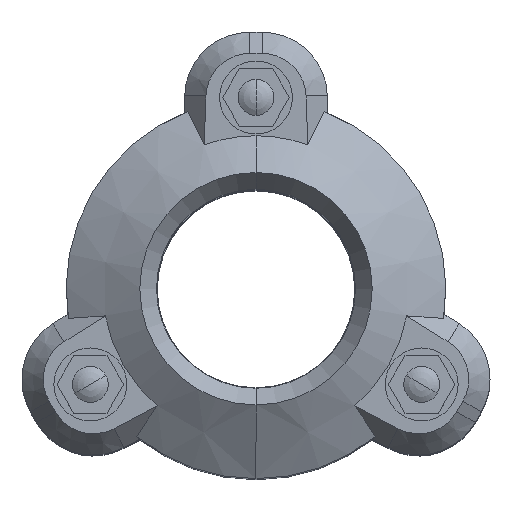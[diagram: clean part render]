
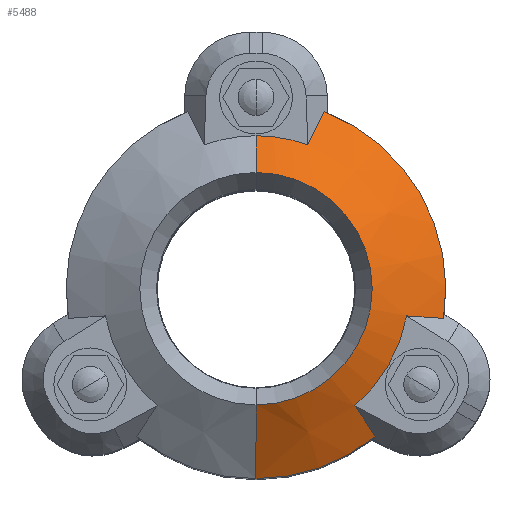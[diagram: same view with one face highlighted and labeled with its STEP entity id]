
A CAD part, top view. The second image highlights one B-rep face of the part: STEP entity #5488.
In plain terms, the highlighted conical face has half-angle 58.261 degrees and reference radius 50.375 mm.
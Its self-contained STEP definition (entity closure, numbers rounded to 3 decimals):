
#4302=CARTESIAN_POINT('',(39.295,-48.602,7.));
#4311=CARTESIAN_POINT('',(61.738,-9.729,7.));
#4360=CARTESIAN_POINT('',(39.295,-48.602,7.));
#4361=CARTESIAN_POINT('',(38.497,-47.407,7.885));
#4362=CARTESIAN_POINT('',(36.931,-45.062,9.622));
#4363=CARTESIAN_POINT('',(34.675,-41.685,12.121));
#4364=CARTESIAN_POINT('',(33.231,-39.525,13.718));
#4365=CARTESIAN_POINT('',(32.524,-38.468,14.5));
#4367=CARTESIAN_POINT('',(0.,0.,7.));
#4368=DIRECTION('',(0.,0.,-1.));
#4369=DIRECTION('',(0.629,-0.778,0.));
#4370=AXIS2_PLACEMENT_3D('',#4367,#4368,#4369);
#4372=DIRECTION('',(0.,0.85,0.526));
#4373=VECTOR('',#4372,28.514);
#4374=CARTESIAN_POINT('',(0.,-62.5,7.));
#4375=LINE('',#4374,#4373);
#4376=DIRECTION('',(0.,-0.85,0.526));
#4377=VECTOR('',#4376,14.257);
#4378=CARTESIAN_POINT('',(0.,50.375,14.5));
#4379=LINE('',#4378,#4377);
#4380=CARTESIAN_POINT('',(0.,0.,14.5));
#4381=DIRECTION('',(0.,0.,1.));
#4382=DIRECTION('',(0.339,0.941,0.));
#4383=AXIS2_PLACEMENT_3D('',#4380,#4381,#4382);
#4385=CARTESIAN_POINT('',(0.,0.,7.));
#4386=DIRECTION('',(0.,0.,-1.));
#4387=DIRECTION('',(0.359,0.933,0.));
#4388=AXIS2_PLACEMENT_3D('',#4385,#4386,#4387);
#4390=CARTESIAN_POINT('',(49.577,-8.933,14.5));
#4391=CARTESIAN_POINT('',(50.844,-9.016,13.72));
#4392=CARTESIAN_POINT('',(53.433,-9.187,12.124));
#4393=CARTESIAN_POINT('',(57.486,-9.452,9.624));
#4394=CARTESIAN_POINT('',(60.302,-9.636,7.887));
#4395=CARTESIAN_POINT('',(61.738,-9.729,7.));
#4397=CARTESIAN_POINT('',(0.,0.,14.5));
#4398=DIRECTION('',(0.,0.,1.));
#4399=DIRECTION('',(0.646,-0.764,0.));
#4400=AXIS2_PLACEMENT_3D('',#4397,#4398,#4399);
#4906=CARTESIAN_POINT('',(22.444,58.331,7.));
#4908=CARTESIAN_POINT('',(22.444,58.331,7.));
#4909=CARTESIAN_POINT('',(21.451,56.321,8.381));
#4910=CARTESIAN_POINT('',(19.56,52.49,11.012));
#4911=CARTESIAN_POINT('',(17.857,49.035,13.381));
#4912=CARTESIAN_POINT('',(17.052,47.401,14.5));
#5017=CARTESIAN_POINT('',(0.,0.,22.));
#5018=DIRECTION('',(0.,0.,-1.));
#5019=DIRECTION('',(0.,1.,0.));
#5020=AXIS2_PLACEMENT_3D('',#5017,#5018,#5019);
#5084=CARTESIAN_POINT('',(0.,38.25,22.));
#5085=VERTEX_POINT('',#5084);
#5090=CARTESIAN_POINT('',(0.,-62.5,7.));
#5091=CARTESIAN_POINT('',(0.,-38.25,22.));
#5092=VERTEX_POINT('',#5090);
#5093=VERTEX_POINT('',#5091);
#5106=CARTESIAN_POINT('',(0.,50.375,14.5));
#5107=VERTEX_POINT('',#5106);
#5128=CARTESIAN_POINT('',(17.052,47.401,14.5));
#5129=VERTEX_POINT('',#5128);
#5132=VERTEX_POINT('',#4906);
#5235=CARTESIAN_POINT('',(49.577,-8.933,14.5));
#5237=VERTEX_POINT('',#5235);
#5250=CARTESIAN_POINT('',(32.524,-38.468,14.5));
#5251=VERTEX_POINT('',#5250);
#5298=VERTEX_POINT('',#4302);
#5301=VERTEX_POINT('',#4311);
#5464=CARTESIAN_POINT('',(0.,0.,14.5));
#5465=DIRECTION('',(0.,0.,-1.));
#5466=DIRECTION('',(0.,-1.,0.));
#5467=AXIS2_PLACEMENT_3D('',#5464,#5465,#5466);
#5468=CONICAL_SURFACE('',#5467,50.375,58.261);
#5470=ORIENTED_EDGE('',*,*,#5469,.F.);
#5471=ORIENTED_EDGE('',*,*,#5454,.F.);
#5472=ORIENTED_EDGE('',*,*,#5389,.T.);
#5474=ORIENTED_EDGE('',*,*,#5473,.T.);
#5476=ORIENTED_EDGE('',*,*,#5475,.F.);
#5478=ORIENTED_EDGE('',*,*,#5477,.F.);
#5480=ORIENTED_EDGE('',*,*,#5479,.F.);
#5482=ORIENTED_EDGE('',*,*,#5481,.F.);
#5483=ORIENTED_EDGE('',*,*,#5405,.T.);
#5485=ORIENTED_EDGE('',*,*,#5484,.F.);
#5486=EDGE_LOOP('',(#5470,#5471,#5472,#5474,#5476,#5478,#5480,#5482,#5483,
#5485));
#5487=FACE_OUTER_BOUND('',#5486,.F.);
#5488=ADVANCED_FACE('',(#5487),#5468,.T.);
#4366=B_SPLINE_CURVE_WITH_KNOTS('',3,(#4360,#4361,#4362,#4363,#4364,#4365),
.UNSPECIFIED.,.F.,.F.,(4,1,1,4),(0.,0.333,0.667,1.),
.UNSPECIFIED.);
#4371=CIRCLE('',#4370,62.5);
#4384=CIRCLE('',#4383,50.375);
#4389=CIRCLE('',#4388,62.5);
#4396=B_SPLINE_CURVE_WITH_KNOTS('',3,(#4390,#4391,#4392,#4393,#4394,#4395),
.UNSPECIFIED.,.F.,.F.,(4,1,1,4),(0.,0.333,0.667,1.),
.UNSPECIFIED.);
#4401=CIRCLE('',#4400,50.375);
#4913=B_SPLINE_CURVE_WITH_KNOTS('',3,(#4908,#4909,#4910,#4911,#4912),
.UNSPECIFIED.,.F.,.F.,(4,1,4),(0.,0.5,1.),.UNSPECIFIED.);
#5021=CIRCLE('',#5020,38.25);
#5389=EDGE_CURVE('',#5298,#5092,#4371,.T.);
#5405=EDGE_CURVE('',#5132,#5301,#4389,.T.);
#5454=EDGE_CURVE('',#5298,#5251,#4366,.T.);
#5469=EDGE_CURVE('',#5251,#5237,#4401,.T.);
#5473=EDGE_CURVE('',#5092,#5093,#4375,.T.);
#5475=EDGE_CURVE('',#5085,#5093,#5021,.T.);
#5477=EDGE_CURVE('',#5107,#5085,#4379,.T.);
#5479=EDGE_CURVE('',#5129,#5107,#4384,.T.);
#5481=EDGE_CURVE('',#5132,#5129,#4913,.T.);
#5484=EDGE_CURVE('',#5237,#5301,#4396,.T.);
